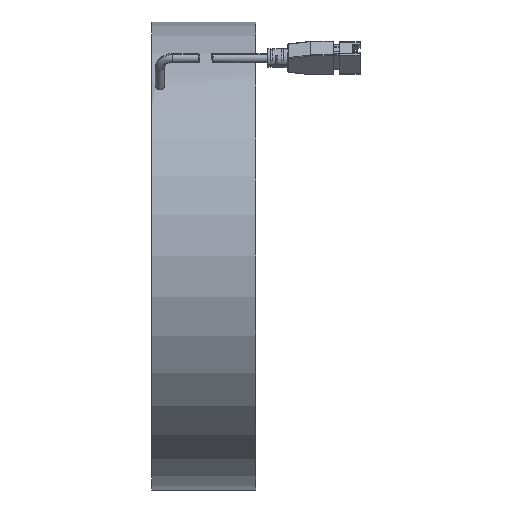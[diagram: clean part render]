
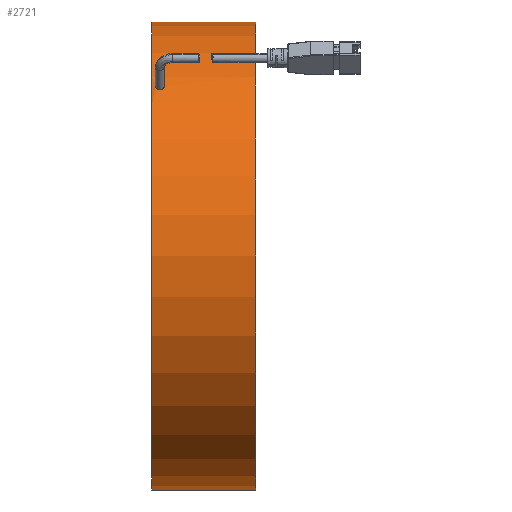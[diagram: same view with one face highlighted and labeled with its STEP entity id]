
A CAD part, left-side view. The second image highlights one B-rep face of the part: STEP entity #2721.
In plain terms, the highlighted cylindrical face has radius 90 mm (diameter 180 mm), a partial arc.
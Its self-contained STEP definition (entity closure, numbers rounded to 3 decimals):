
#93 = CARTESIAN_POINT ( 'NONE',  ( -61.422, 38.574, 65.783 ) ) ;
#225 = CARTESIAN_POINT ( 'NONE',  ( -60.705, 37., 66.445 ) ) ;
#226 = CYLINDRICAL_SURFACE ( 'NONE', #726, 90. ) ;
#408 = DIRECTION ( 'NONE',  ( 0., 0., -1. ) ) ;
#423 = CARTESIAN_POINT ( 'NONE',  ( -63.077, 36.121, 64.197 ) ) ;
#482 = CARTESIAN_POINT ( 'NONE',  ( -61.344, 35.471, 65.855 ) ) ;
#504 = CARTESIAN_POINT ( 'NONE',  ( -62.545, 35.426, 64.716 ) ) ;
#605 = CARTESIAN_POINT ( 'NONE',  ( -60.705, 37., 66.445 ) ) ;
#705 = CARTESIAN_POINT ( 'NONE',  ( 0., 0., 90. ) ) ;
#721 = CARTESIAN_POINT ( 'NONE',  ( -60.876, 37.879, 66.288 ) ) ;
#726 = AXIS2_PLACEMENT_3D ( 'NONE', #6256, #4301, #408 ) ;
#1049 = CARTESIAN_POINT ( 'NONE',  ( -62.618, 35.481, 64.645 ) ) ;
#1073 = CARTESIAN_POINT ( 'NONE',  ( 0., 0., 90. ) ) ;
#1096 = EDGE_CURVE ( 'NONE', #1483, #1338, #4259, .T. ) ;
#1338 = VERTEX_POINT ( 'NONE', #705 ) ;
#1483 = VERTEX_POINT ( 'NONE', #4148 ) ;
#1539 = VERTEX_POINT ( 'NONE', #1546 ) ;
#1546 = CARTESIAN_POINT ( 'NONE',  ( 0., 40., -90. ) ) ;
#1658 = DIRECTION ( 'NONE',  ( 0., -1., 0. ) ) ;
#1681 = AXIS2_PLACEMENT_3D ( 'NONE', #6930, #3097, #6321 ) ;
#1691 = VERTEX_POINT ( 'NONE', #7468 ) ;
#1740 = VECTOR ( 'NONE', #1658, 1000. ) ;
#1755 = CARTESIAN_POINT ( 'NONE',  ( -63.116, 36.223, 64.159 ) ) ;
#1782 = CARTESIAN_POINT ( 'NONE',  ( -62.392, 35.339, 64.863 ) ) ;
#1980 = CARTESIAN_POINT ( 'NONE',  ( -63.243, 37.116, 64.034 ) ) ;
#2040 = CARTESIAN_POINT ( 'NONE',  ( -63.203, 37.453, 64.073 ) ) ;
#2087 = ORIENTED_EDGE ( 'NONE', *, *, #7006, .T. ) ;
#2207 = B_SPLINE_CURVE_WITH_KNOTS ( 'NONE', 3,
 ( #4379, #6829, #8174, #5675, #3077, #5624, #4321, #3768, #8196, #2997, #482, #2448, #3109, #8226, #4992, #8111, #1782, #504, #1049, #6193, #5596, #6220, #2336, #423, #1755, #2395, #5574, #3661 ),
 .UNSPECIFIED., .F., .F.,
 ( 4, 2, 2, 2, 2, 2, 2, 2, 2, 2, 2, 2, 2, 4 ),
 ( 0.005, 0.006, 0.006, 0.006, 0.007, 0.008, 0.008, 0.009, 0.009, 0.009, 0.01, 0.01, 0.01, 0.011 ),
 .UNSPECIFIED. ) ;
#2214 = EDGE_CURVE ( 'NONE', #1539, #5314, #6214, .T. ) ;
#2336 = CARTESIAN_POINT ( 'NONE',  ( -62.987, 35.932, 64.286 ) ) ;
#2395 = CARTESIAN_POINT ( 'NONE',  ( -63.21, 36.542, 64.066 ) ) ;
#2448 = CARTESIAN_POINT ( 'NONE',  ( -61.652, 35.296, 65.568 ) ) ;
#2587 = CARTESIAN_POINT ( 'NONE',  ( -61.82, 38.739, 65.409 ) ) ;
#2616 = CARTESIAN_POINT ( 'NONE',  ( -60.97, 38.068, 66.202 ) ) ;
#2675 = CARTESIAN_POINT ( 'NONE',  ( -63.078, 37.876, 64.196 ) ) ;
#2705 = CARTESIAN_POINT ( 'NONE',  ( -61.208, 38.392, 65.982 ) ) ;
#2721 = ADVANCED_FACE ( 'NONE', ( #6682, #6478 ), #226, .T. ) ;
#2997 = CARTESIAN_POINT ( 'NONE',  ( -61.201, 35.601, 65.988 ) ) ;
#3077 = CARTESIAN_POINT ( 'NONE',  ( -60.771, 36.436, 66.384 ) ) ;
#3097 = DIRECTION ( 'NONE',  ( 0., 1., 0. ) ) ;
#3109 = CARTESIAN_POINT ( 'NONE',  ( -61.819, 35.25, 65.41 ) ) ;
#3292 = CARTESIAN_POINT ( 'NONE',  ( -63.116, 37.776, 64.159 ) ) ;
#3321 = CARTESIAN_POINT ( 'NONE',  ( -62.621, 38.529, 64.642 ) ) ;
#3436 = EDGE_CURVE ( 'NONE', #1483, #1539, #4273, .T. ) ;
#3521 = EDGE_LOOP ( 'NONE', ( #2087, #7034 ) ) ;
#3661 = CARTESIAN_POINT ( 'NONE',  ( -63.243, 37., 64.034 ) ) ;
#3768 = CARTESIAN_POINT ( 'NONE',  ( -60.969, 35.933, 66.203 ) ) ;
#3866 = CARTESIAN_POINT ( 'NONE',  ( -60.836, 37.777, 66.325 ) ) ;
#3916 = CARTESIAN_POINT ( 'NONE',  ( -61.577, 38.661, 65.638 ) ) ;
#3974 = CARTESIAN_POINT ( 'NONE',  ( -61.904, 38.75, 65.329 ) ) ;
#4127 = EDGE_LOOP ( 'NONE', ( #4223, #4858, #4501, #5110 ) ) ;
#4148 = CARTESIAN_POINT ( 'NONE',  ( 0., 40., 90. ) ) ;
#4223 = ORIENTED_EDGE ( 'NONE', *, *, #1096, .F. ) ;
#4259 = LINE ( 'NONE', #1073, #1740 ) ;
#4273 = CIRCLE ( 'NONE', #6422, 90. ) ;
#4301 = DIRECTION ( 'NONE',  ( 0., -1., 0. ) ) ;
#4321 = CARTESIAN_POINT ( 'NONE',  ( -60.875, 36.124, 66.289 ) ) ;
#4364 = DIRECTION ( 'NONE',  ( 0., -1., 0. ) ) ;
#4379 = CARTESIAN_POINT ( 'NONE',  ( -60.705, 37., 66.445 ) ) ;
#4501 = ORIENTED_EDGE ( 'NONE', *, *, #2214, .T. ) ;
#4506 = CARTESIAN_POINT ( 'NONE',  ( -60.705, 37.231, 66.445 ) ) ;
#4534 = CARTESIAN_POINT ( 'NONE',  ( -61.143, 38.32, 66.042 ) ) ;
#4615 = CARTESIAN_POINT ( 'NONE',  ( -61.347, 38.519, 65.852 ) ) ;
#4858 = ORIENTED_EDGE ( 'NONE', *, *, #3436, .T. ) ;
#4992 = CARTESIAN_POINT ( 'NONE',  ( -62.151, 35.261, 65.094 ) ) ;
#5110 = ORIENTED_EDGE ( 'NONE', *, *, #8037, .T. ) ;
#5144 = CARTESIAN_POINT ( 'NONE',  ( -63.179, 37.564, 64.097 ) ) ;
#5314 = VERTEX_POINT ( 'NONE', #7505 ) ;
#5574 = CARTESIAN_POINT ( 'NONE',  ( -63.243, 36.769, 64.034 ) ) ;
#5596 = CARTESIAN_POINT ( 'NONE',  ( -62.818, 35.68, 64.451 ) ) ;
#5624 = CARTESIAN_POINT ( 'NONE',  ( -60.836, 36.224, 66.325 ) ) ;
#5675 = CARTESIAN_POINT ( 'NONE',  ( -60.746, 36.547, 66.407 ) ) ;
#5702 = CIRCLE ( 'NONE', #1681, 90. ) ;
#5811 = CARTESIAN_POINT ( 'NONE',  ( -61.656, 38.694, 65.563 ) ) ;
#5897 = CARTESIAN_POINT ( 'NONE',  ( -63.243, 37., 64.034 ) ) ;
#6193 = CARTESIAN_POINT ( 'NONE',  ( -62.754, 35.608, 64.513 ) ) ;
#6214 = LINE ( 'NONE', #6726, #8100 ) ;
#6220 = CARTESIAN_POINT ( 'NONE',  ( -62.935, 35.843, 64.337 ) ) ;
#6256 = CARTESIAN_POINT ( 'NONE',  ( 0., 0., 0. ) ) ;
#6321 = DIRECTION ( 'NONE',  ( 0., 0., -1. ) ) ;
#6369 = EDGE_CURVE ( 'NONE', #1691, #6761, #7820, .T. ) ;
#6422 = AXIS2_PLACEMENT_3D ( 'NONE', #8211, #4364, #7518 ) ;
#6478 = FACE_BOUND ( 'NONE', #3521, .T. ) ;
#6509 = CARTESIAN_POINT ( 'NONE',  ( -62.935, 38.157, 64.337 ) ) ;
#6536 = CARTESIAN_POINT ( 'NONE',  ( -62.987, 38.067, 64.285 ) ) ;
#6682 = FACE_OUTER_BOUND ( 'NONE', #4127, .T. ) ;
#6726 = CARTESIAN_POINT ( 'NONE',  ( 0., 0., -90. ) ) ;
#6761 = VERTEX_POINT ( 'NONE', #225 ) ;
#6783 = DIRECTION ( 'NONE',  ( 0., -1., 0. ) ) ;
#6829 = CARTESIAN_POINT ( 'NONE',  ( -60.705, 36.884, 66.445 ) ) ;
#6930 = CARTESIAN_POINT ( 'NONE',  ( 0., 0., 0. ) ) ;
#7006 = EDGE_CURVE ( 'NONE', #6761, #1691, #2207, .T. ) ;
#7034 = ORIENTED_EDGE ( 'NONE', *, *, #6369, .T. ) ;
#7057 = CARTESIAN_POINT ( 'NONE',  ( -60.739, 37.458, 66.414 ) ) ;
#7143 = CARTESIAN_POINT ( 'NONE',  ( -62.761, 38.399, 64.506 ) ) ;
#7166 = CARTESIAN_POINT ( 'NONE',  ( -62.318, 38.704, 64.934 ) ) ;
#7468 = CARTESIAN_POINT ( 'NONE',  ( -63.243, 37., 64.034 ) ) ;
#7505 = CARTESIAN_POINT ( 'NONE',  ( 0., 0., -90. ) ) ;
#7518 = DIRECTION ( 'NONE',  ( 0., 0., -1. ) ) ;
#7685 = CARTESIAN_POINT ( 'NONE',  ( -61.023, 38.157, 66.153 ) ) ;
#7730 = CARTESIAN_POINT ( 'NONE',  ( -63.235, 37.229, 64.042 ) ) ;
#7756 = CARTESIAN_POINT ( 'NONE',  ( -62.152, 38.75, 65.094 ) ) ;
#7820 = B_SPLINE_CURVE_WITH_KNOTS ( 'NONE', 3,
 ( #5897, #1980, #7730, #2040, #5144, #3292, #2675, #6536, #6509, #7143, #3321, #7166, #7756, #3974, #2587, #5811, #3916, #93, #4615, #2705, #4534, #7685, #2616, #721, #3866, #7057, #4506, #605 ),
 .UNSPECIFIED., .F., .F.,
 ( 4, 2, 2, 2, 2, 2, 2, 2, 2, 2, 2, 2, 2, 4 ),
 ( 0., 0., 0.001, 0.001, 0.001, 0.002, 0.003, 0.003, 0.003, 0.004, 0.004, 0.004, 0.005, 0.005 ),
 .UNSPECIFIED. ) ;
#8037 = EDGE_CURVE ( 'NONE', #5314, #1338, #5702, .T. ) ;
#8100 = VECTOR ( 'NONE', #6783, 1000. ) ;
#8111 = CARTESIAN_POINT ( 'NONE',  ( -62.314, 35.306, 64.939 ) ) ;
#8174 = CARTESIAN_POINT ( 'NONE',  ( -60.713, 36.771, 66.437 ) ) ;
#8196 = CARTESIAN_POINT ( 'NONE',  ( -61.023, 35.843, 66.153 ) ) ;
#8211 = CARTESIAN_POINT ( 'NONE',  ( 0., 40., 0. ) ) ;
#8226 = CARTESIAN_POINT ( 'NONE',  ( -62.067, 35.25, 65.174 ) ) ;
